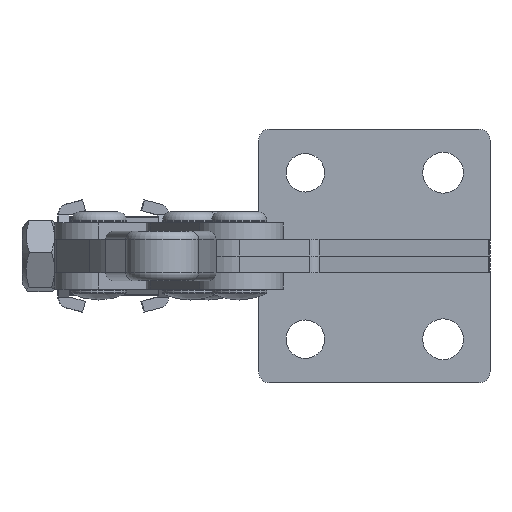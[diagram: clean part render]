
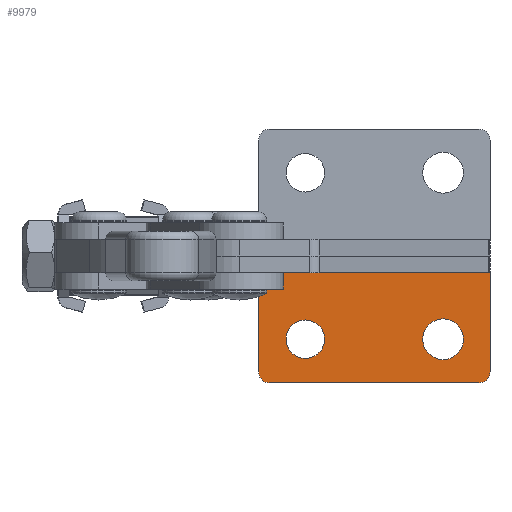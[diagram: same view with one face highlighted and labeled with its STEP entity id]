
A CAD part, left-side view. The second image highlights one B-rep face of the part: STEP entity #9979.
In plain terms, the highlighted planar face has unit normal (-1, 0, 0).
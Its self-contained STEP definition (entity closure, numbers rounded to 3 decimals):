
#314=FACE_BOUND('',#1630,.T.);
#315=FACE_BOUND('',#1631,.T.);
#552=PLANE('',#10668);
#1057=FACE_OUTER_BOUND('',#1629,.T.);
#1629=EDGE_LOOP('',(#8949,#8950,#8951,#8952,#8953,#8954));
#1630=EDGE_LOOP('',(#8955,#8956));
#1631=EDGE_LOOP('',(#8957,#8958));
#1839=CIRCLE('',#10616,3.5);
#1840=CIRCLE('',#10617,3.5);
#1843=CIRCLE('',#10621,3.7);
#1844=CIRCLE('',#10622,3.7);
#1873=CIRCLE('',#10669,2.);
#1874=CIRCLE('',#10670,2.);
#3067=LINE('',#39401,#3864);
#3081=LINE('',#39459,#3878);
#3087=LINE('',#39475,#3884);
#3098=LINE('',#39500,#3895);
#3864=VECTOR('',#12331,1000.);
#3878=VECTOR('',#12379,1000.);
#3884=VECTOR('',#12395,1000.);
#3895=VECTOR('',#12430,1000.);
#4781=VERTEX_POINT('',#39359);
#4782=VERTEX_POINT('',#39360);
#4785=VERTEX_POINT('',#39369);
#4786=VERTEX_POINT('',#39370);
#4797=VERTEX_POINT('',#39399);
#4798=VERTEX_POINT('',#39400);
#4825=VERTEX_POINT('',#39458);
#4830=VERTEX_POINT('',#39473);
#4831=VERTEX_POINT('',#39497);
#4832=VERTEX_POINT('',#39499);
#6168=EDGE_CURVE('',#4781,#4782,#1839,.T.);
#6169=EDGE_CURVE('',#4782,#4781,#1840,.T.);
#6173=EDGE_CURVE('',#4785,#4786,#1843,.T.);
#6174=EDGE_CURVE('',#4786,#4785,#1844,.T.);
#6188=EDGE_CURVE('',#4797,#4798,#3067,.T.);
#6217=EDGE_CURVE('',#4797,#4825,#3081,.T.);
#6226=EDGE_CURVE('',#4830,#4798,#3087,.T.);
#6237=EDGE_CURVE('',#4831,#4830,#1873,.T.);
#6238=EDGE_CURVE('',#4832,#4831,#3098,.T.);
#6239=EDGE_CURVE('',#4825,#4832,#1874,.T.);
#8949=ORIENTED_EDGE('',*,*,#6217,.F.);
#8950=ORIENTED_EDGE('',*,*,#6188,.T.);
#8951=ORIENTED_EDGE('',*,*,#6226,.F.);
#8952=ORIENTED_EDGE('',*,*,#6237,.F.);
#8953=ORIENTED_EDGE('',*,*,#6238,.F.);
#8954=ORIENTED_EDGE('',*,*,#6239,.F.);
#8955=ORIENTED_EDGE('',*,*,#6173,.T.);
#8956=ORIENTED_EDGE('',*,*,#6174,.T.);
#8957=ORIENTED_EDGE('',*,*,#6168,.T.);
#8958=ORIENTED_EDGE('',*,*,#6169,.T.);
#9979=ADVANCED_FACE('',(#1057,#314,#315),#552,.F.);
#10616=AXIS2_PLACEMENT_3D('',#39361,#12287,#12288);
#10617=AXIS2_PLACEMENT_3D('',#39362,#12289,#12290);
#10621=AXIS2_PLACEMENT_3D('',#39371,#12298,#12299);
#10622=AXIS2_PLACEMENT_3D('',#39372,#12300,#12301);
#10668=AXIS2_PLACEMENT_3D('',#39496,#12426,#12427);
#10669=AXIS2_PLACEMENT_3D('',#39498,#12428,#12429);
#10670=AXIS2_PLACEMENT_3D('',#39501,#12431,#12432);
#12287=DIRECTION('center_axis',(1.,0.,0.));
#12288=DIRECTION('ref_axis',(0.,0.,-1.));
#12289=DIRECTION('center_axis',(1.,0.,0.));
#12290=DIRECTION('ref_axis',(0.,0.,-1.));
#12298=DIRECTION('center_axis',(1.,0.,0.));
#12299=DIRECTION('ref_axis',(0.,0.,-1.));
#12300=DIRECTION('center_axis',(1.,0.,0.));
#12301=DIRECTION('ref_axis',(0.,0.,-1.));
#12331=DIRECTION('',(0.,1.,0.));
#12379=DIRECTION('',(0.,0.,-1.));
#12395=DIRECTION('',(0.,0.,1.));
#12426=DIRECTION('center_axis',(1.,0.,0.));
#12427=DIRECTION('ref_axis',(0.,0.,-1.));
#12428=DIRECTION('center_axis',(1.,0.,0.));
#12429=DIRECTION('ref_axis',(0.,0.,1.));
#12430=DIRECTION('',(0.,1.,0.));
#12431=DIRECTION('center_axis',(1.,0.,0.));
#12432=DIRECTION('ref_axis',(0.,0.,-1.));
#39359=CARTESIAN_POINT('',(-3.,33.5,-15.6));
#39360=CARTESIAN_POINT('',(-3.,33.5,-8.6));
#39361=CARTESIAN_POINT('Origin',(-3.,33.5,-12.1));
#39362=CARTESIAN_POINT('Origin',(-3.,33.5,-12.1));
#39369=CARTESIAN_POINT('',(-3.,8.5,-15.8));
#39370=CARTESIAN_POINT('',(-3.,8.5,-8.4));
#39371=CARTESIAN_POINT('Origin',(-3.,8.5,-12.1));
#39372=CARTESIAN_POINT('Origin',(-3.,8.5,-12.1));
#39399=CARTESIAN_POINT('',(-3.,0.,0.));
#39400=CARTESIAN_POINT('',(-3.,42.,0.));
#39401=CARTESIAN_POINT('',(-3.,2.,0.));
#39458=CARTESIAN_POINT('',(-3.,0.,-18.));
#39459=CARTESIAN_POINT('',(-3.,0.,3.));
#39473=CARTESIAN_POINT('',(-3.,42.,-18.));
#39475=CARTESIAN_POINT('',(-3.,42.,3.));
#39496=CARTESIAN_POINT('Origin',(-3.,2.,-18.));
#39497=CARTESIAN_POINT('',(-3.,40.,-20.));
#39498=CARTESIAN_POINT('Origin',(-3.,40.,-18.));
#39499=CARTESIAN_POINT('',(-3.,2.,-20.));
#39500=CARTESIAN_POINT('',(-3.,40.,-20.));
#39501=CARTESIAN_POINT('Origin',(-3.,2.,-18.));
